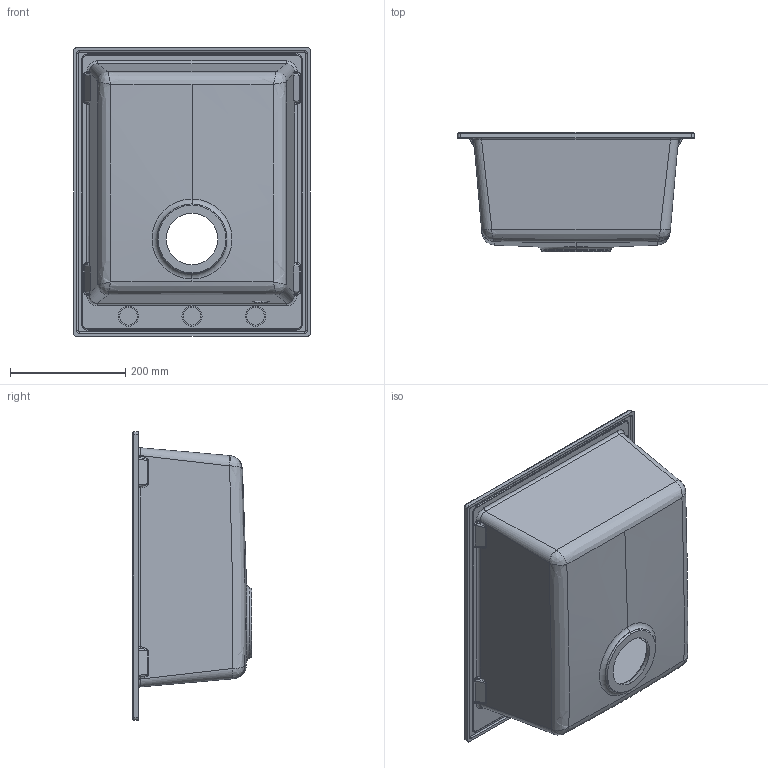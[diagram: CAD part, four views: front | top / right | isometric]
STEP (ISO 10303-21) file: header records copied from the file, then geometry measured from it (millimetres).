
FILE_DESCRIPTION (( 'STEP AP203' ), '1' );
FILE_NAME ('Quadra100.STEP', '2018-11-14T15:17:17', ( '' ), ( '' ), 'SwSTEP 2.0', 'SolidWorks 2013', '' );
FILE_SCHEMA (( 'CONFIG_CONTROL_DESIGN' ));
Length unit declared in the file: millimetre
Products named in the file (1): Quadra100
Bounding box: 410 x 206.69 x 500 mm (x, y, z)
Volume: 3529511.7 mm3; surface area: 880202.8 mm2
Topology: 1 solids, 1 shells, 244 faces, 568 edges, 324 vertices
Faces by surface type: bspline 98, cylinder 82, plane 40, cone 10, torus 10, sphere 4
Entity records: 11764 total; most frequent: CARTESIAN_POINT 6974, ORIENTED_EDGE 1112, DIRECTION 838, EDGE_CURVE 556, AXIS2_PLACEMENT_3D 339, VERTEX_POINT 324, EDGE_LOOP 258, ADVANCED_FACE 244
